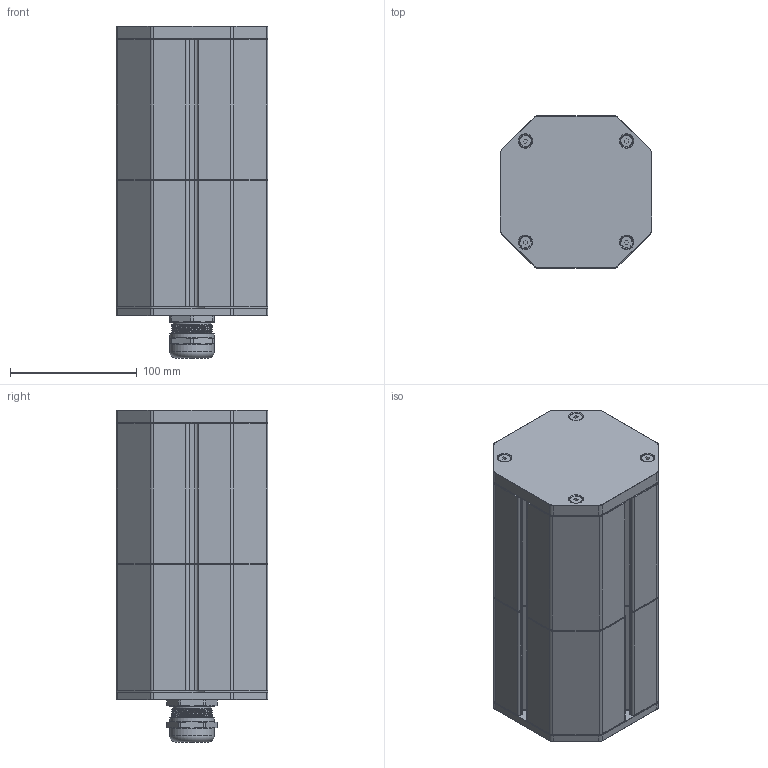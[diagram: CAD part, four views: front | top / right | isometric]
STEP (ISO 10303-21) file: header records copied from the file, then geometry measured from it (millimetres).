
FILE_DESCRIPTION(/* description */ (''),/* implementation_level */ '2;1');
FILE_NAME(/* name */ 'FG-CH87-110-100-M01-F00-B01.stp',/* time_stamp */ '2026-04-14T15:53:42+02:00',/* author */ ('roman'),/* organization */ (''),/* preprocessor_version */ 'ST-DEVELOPER v20',/* originating_system */ 'Autodesk Inventor 2024',/* authorisation */ '');
FILE_SCHEMA (('AUTOMOTIVE_DESIGN { 1 0 10303 214 3 1 1 }'));
Length unit declared in the file: millimetre
Products named in the file (13): FG-CH87-110-100-M01-F00-B01; SUB-CH87-MID-110-100-M01; CH87-BDB-100; CH87-ROD-210; CH87-BDF-110-M01; SUB-CH87-BCK-B01; CH87-CPB-RD; SKINTOP 32x1.5; Matice pruchodky M32x1,5; CH87-SL1; CH87-SL2; CH87-CPF-PMMA; DIN 7991 - M5x20
Assembly tree (23 placements, depth 3):
  FG-CH87-110-100-M01-F00-B01
    SUB-CH87-MID-110-100-M01
      CH87-BDB-100
      CH87-ROD-210  x4
      CH87-BDF-110-M01
      CH87-SL1
    SUB-CH87-BCK-B01
      CH87-CPB-RD
      SKINTOP 32x1.5
      Matice pruchodky M32x1,5
    CH87-SL1
    DIN 7991 - M5x20  x8
    CH87-SL2
    CH87-CPF-PMMA
Bounding box: 120 x 120 x 262.4 mm (x, y, z)
Volume: 867680.6 mm3; surface area: 481231.6 mm2
Topology: 21 solids, 21 shells, 1010 faces, 2725 edges, 1761 vertices
Faces by surface type: plane 453, cylinder 450, cone 95, torus 9, bspline 3
Full cylindrical faces by diameter (mm): 4 x4, 5 x8, 5.5 x4, 6 x8, 6.8 x20, 8.5 x4, 10 x8, 21.4 x1, 25 x1, 30 x2, 30.376 x1, 32 x6, 32.2 x1, 32.5 x1, 35.3 x2, 87 x5, 92 x1
Entity records: 25824 total; most frequent: CARTESIAN_POINT 5432, DIRECTION 4345, ORIENTED_EDGE 4084, EDGE_CURVE 2042, AXIS2_PLACEMENT_3D 1579, VERTEX_POINT 1324, LINE 1187, VECTOR 1187
